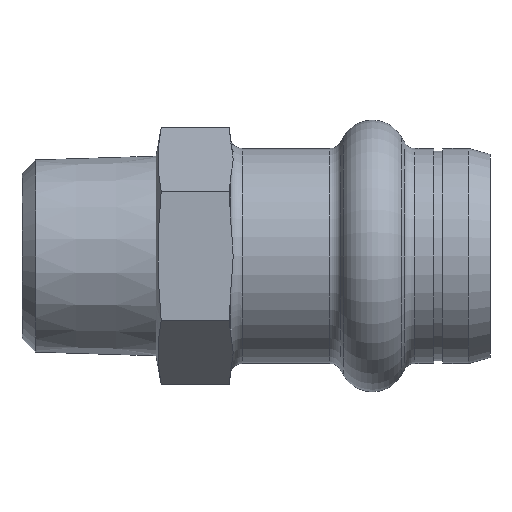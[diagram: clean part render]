
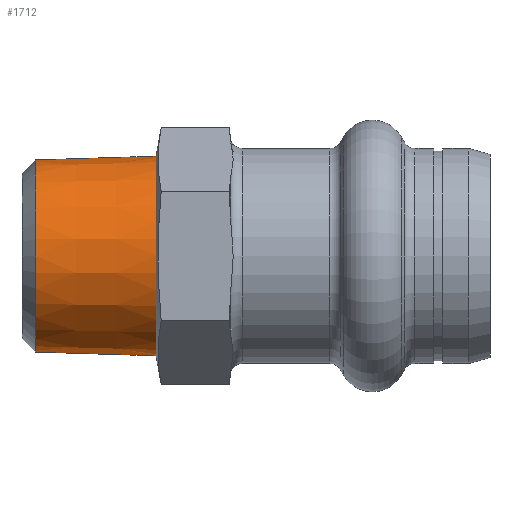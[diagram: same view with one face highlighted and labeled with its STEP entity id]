
A CAD part, left-side view. The second image highlights one B-rep face of the part: STEP entity #1712.
In plain terms, the highlighted conical face has half-angle 1.78 degrees and reference radius 8.486 mm.
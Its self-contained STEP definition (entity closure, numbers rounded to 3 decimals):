
#21 = AXIS2_PLACEMENT_3D ( 'NONE', #1831, #1246, #1033 ) ;
#85 = DIRECTION ( 'NONE',  ( 0., -1., 0. ) ) ;
#104 = ORIENTED_EDGE ( 'NONE', *, *, #772, .T. ) ;
#155 = VERTEX_POINT ( 'NONE', #1054 ) ;
#194 = VERTEX_POINT ( 'NONE', #921 ) ;
#255 = ORIENTED_EDGE ( 'NONE', *, *, #1225, .T. ) ;
#375 = CARTESIAN_POINT ( 'NONE',  ( 0., 28.4, 0. ) ) ;
#394 = DIRECTION ( 'NONE',  ( 0., -1., 0. ) ) ;
#444 = CONICAL_SURFACE ( 'NONE', #1129, 8.486, 0.031 ) ;
#467 = CARTESIAN_POINT ( 'NONE',  ( 0., 28.4, 8.486 ) ) ;
#470 = CIRCLE ( 'NONE', #1337, 8.486 ) ;
#504 = LINE ( 'NONE', #1434, #864 ) ;
#530 = DIRECTION ( 'NONE',  ( 0., 0., -1. ) ) ;
#546 = DIRECTION ( 'NONE',  ( 0., -1., -0.031 ) ) ;
#576 = DIRECTION ( 'NONE',  ( 0., 0., -1. ) ) ;
#627 = LINE ( 'NONE', #1078, #1367 ) ;
#749 = VERTEX_POINT ( 'NONE', #467 ) ;
#758 = VERTEX_POINT ( 'NONE', #1219 ) ;
#772 = EDGE_CURVE ( 'NONE', #758, #194, #1770, .T. ) ;
#824 = EDGE_CURVE ( 'NONE', #758, #749, #627, .T. ) ;
#864 = VECTOR ( 'NONE', #546, 1000. ) ;
#885 = CARTESIAN_POINT ( 'NONE',  ( 0., 28.4, 0. ) ) ;
#921 = CARTESIAN_POINT ( 'NONE',  ( 0., 38.632, -8.168 ) ) ;
#958 = EDGE_CURVE ( 'NONE', #749, #155, #470, .T. ) ;
#1033 = DIRECTION ( 'NONE',  ( 0., 0., -1. ) ) ;
#1054 = CARTESIAN_POINT ( 'NONE',  ( 0., 28.4, -8.486 ) ) ;
#1078 = CARTESIAN_POINT ( 'NONE',  ( 0., 28.4, 8.486 ) ) ;
#1129 = AXIS2_PLACEMENT_3D ( 'NONE', #375, #85, #530 ) ;
#1219 = CARTESIAN_POINT ( 'NONE',  ( 0., 38.632, 8.168 ) ) ;
#1225 = EDGE_CURVE ( 'NONE', #194, #155, #504, .T. ) ;
#1246 = DIRECTION ( 'NONE',  ( 0., -1., 0. ) ) ;
#1309 = FACE_OUTER_BOUND ( 'NONE', #1739, .T. ) ;
#1337 = AXIS2_PLACEMENT_3D ( 'NONE', #885, #394, #576 ) ;
#1367 = VECTOR ( 'NONE', #1692, 1000. ) ;
#1434 = CARTESIAN_POINT ( 'NONE',  ( 0., 28.4, -8.486 ) ) ;
#1664 = ORIENTED_EDGE ( 'NONE', *, *, #958, .F. ) ;
#1692 = DIRECTION ( 'NONE',  ( 0., -1., 0.031 ) ) ;
#1712 = ADVANCED_FACE ( 'NONE', ( #1309 ), #444, .T. ) ;
#1739 = EDGE_LOOP ( 'NONE', ( #1743, #104, #255, #1664 ) ) ;
#1743 = ORIENTED_EDGE ( 'NONE', *, *, #824, .F. ) ;
#1770 = CIRCLE ( 'NONE', #21, 8.168 ) ;
#1831 = CARTESIAN_POINT ( 'NONE',  ( 0., 38.632, 0. ) ) ;
